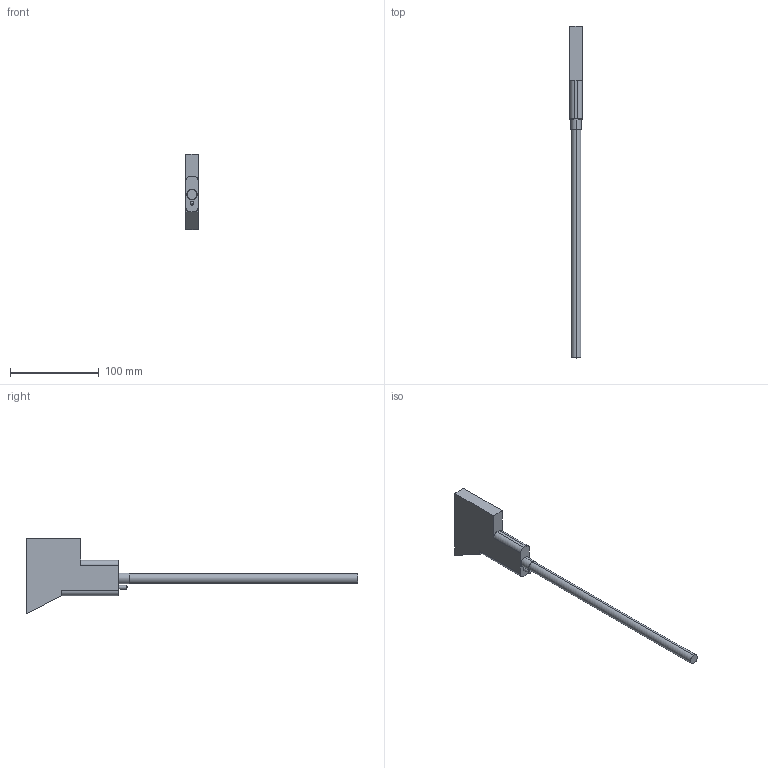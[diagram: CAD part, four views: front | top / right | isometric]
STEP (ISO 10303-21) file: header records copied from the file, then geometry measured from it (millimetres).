
FILE_DESCRIPTION(('STEP AP214'),'1');
FILE_NAME('dl144065_cut.stp','2021-02-19T07:42:48',('carles'),('None'),'Spatial InterOp 3D','CimatronE 14.0',' ');
FILE_SCHEMA(('AUTOMOTIVE_DESIGN'));
Length unit declared in the file: millimetre
Products named in the file (1): 1
Bounding box: 14 x 375 x 85.38 mm (x, y, z)
Volume: 110848.6 mm3; surface area: 26407.6 mm2
Topology: 1 solids, 1 shells, 23 faces, 54 edges, 35 vertices
Faces by surface type: plane 13, cylinder 9, cone 1
Full cylindrical faces by diameter (mm): 4.2 x1
Entity records: 870 total; most frequent: DIRECTION 119, CARTESIAN_POINT 111, ORIENTED_EDGE 102, EDGE_CURVE 51, AXIS2_PLACEMENT_3D 43, VERTEX_POINT 35, LINE 33, VECTOR 33
